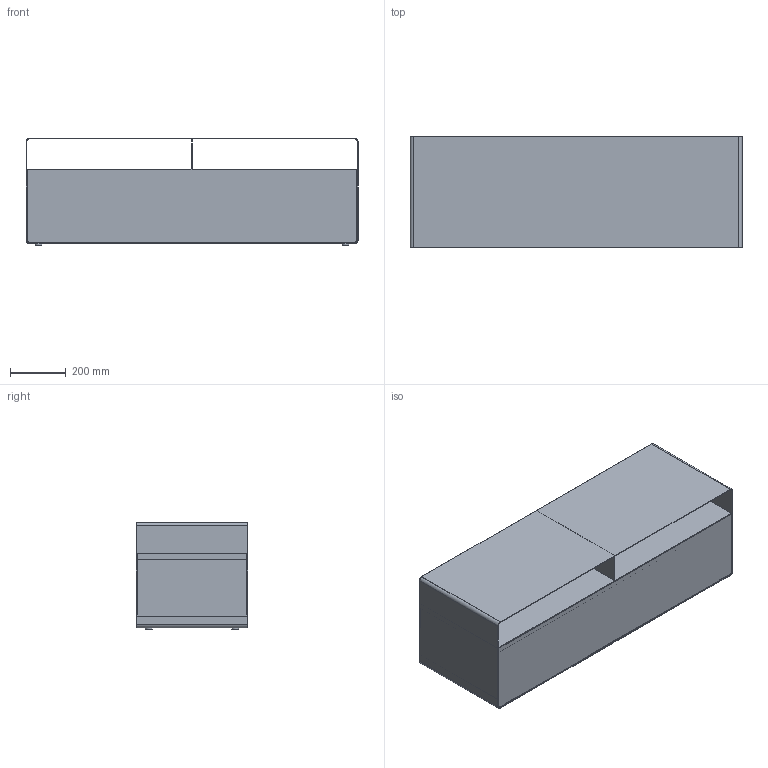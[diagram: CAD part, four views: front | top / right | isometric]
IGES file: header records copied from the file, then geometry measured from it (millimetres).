
Start section: Comment
Global section: file name: R109N.igs; native system:  By UGS Corp.; preprocessor: XPlus GENERIC/IGES 3.0; author: Author; organization: Title; date: 20151109.130246; units: inch
Bounding box: 1195 x 400 x 387 mm (x, y, z)
Surface area: 4989914.4 mm2 (no closed solid volume)
Topology: 0 solids, 0 shells, 99 faces, 536 edges, 536 vertices
Faces by surface type: bspline 99
